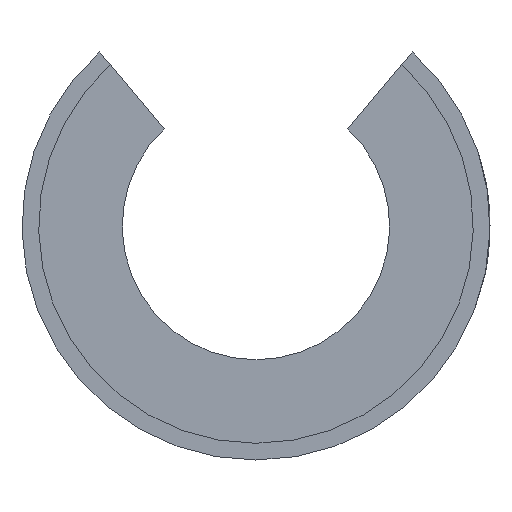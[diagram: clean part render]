
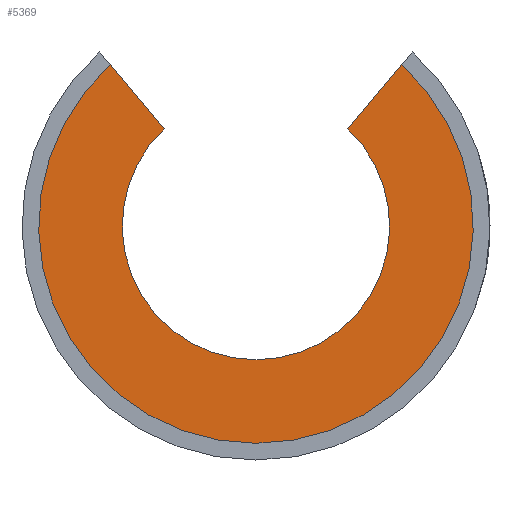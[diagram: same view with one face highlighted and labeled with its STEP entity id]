
A CAD part, left-side view. The second image highlights one B-rep face of the part: STEP entity #5369.
In plain terms, the highlighted planar face has unit normal (-1, 0, 0).
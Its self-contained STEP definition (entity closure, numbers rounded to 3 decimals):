
#123=PLANE('',#5790);
#399=LINE('',#8424,#857);
#400=LINE('',#8428,#858);
#857=VECTOR('',#6394,1000.);
#858=VECTOR('',#6397,1000.);
#1273=CIRCLE('',#5765,8.);
#1286=CIRCLE('',#5791,12.999);
#1656=ORIENTED_EDGE('',*,*,#3231,.T.);
#1657=ORIENTED_EDGE('',*,*,#3269,.T.);
#1658=ORIENTED_EDGE('',*,*,#3270,.F.);
#1659=ORIENTED_EDGE('',*,*,#3271,.T.);
#3231=EDGE_CURVE('',#4045,#4044,#1273,.F.);
#3269=EDGE_CURVE('',#4044,#4069,#399,.T.);
#3270=EDGE_CURVE('',#4070,#4069,#1286,.T.);
#3271=EDGE_CURVE('',#4070,#4045,#400,.T.);
#4044=VERTEX_POINT('',#8348);
#4045=VERTEX_POINT('',#8350);
#4069=VERTEX_POINT('',#8425);
#4070=VERTEX_POINT('',#8427);
#4594=EDGE_LOOP('',(#1656,#1657,#1658,#1659));
#4972=FACE_BOUND('',#4594,.T.);
#5369=ADVANCED_FACE('',(#4972),#123,.T.);
#5765=AXIS2_PLACEMENT_3D('',#8349,#6317,#6318);
#5790=AXIS2_PLACEMENT_3D('',#8423,#6392,#6393);
#5791=AXIS2_PLACEMENT_3D('',#8426,#6395,#6396);
#6317=DIRECTION('',(-1.,0.,0.));
#6318=DIRECTION('',(0.,0.,1.));
#6392=DIRECTION('',(-1.,0.,0.));
#6393=DIRECTION('',(0.,0.,-1.));
#6394=DIRECTION('',(0.,0.643,0.766));
#6395=DIRECTION('',(1.,0.,0.));
#6396=DIRECTION('',(0.,0.,-1.));
#6397=DIRECTION('',(0.,0.643,-0.766));
#8348=CARTESIAN_POINT('',(-17.4,5.5,5.809));
#8349=CARTESIAN_POINT('',(-17.4,0.,0.));
#8350=CARTESIAN_POINT('',(-17.4,-5.5,5.809));
#8423=CARTESIAN_POINT('',(-17.4,0.,0.));
#8424=CARTESIAN_POINT('',(-17.4,5.5,5.809));
#8425=CARTESIAN_POINT('',(-17.4,8.717,9.643));
#8426=CARTESIAN_POINT('',(-17.4,0.,0.));
#8427=CARTESIAN_POINT('',(-17.4,-8.717,9.643));
#8428=CARTESIAN_POINT('',(-17.4,-5.5,5.809));
